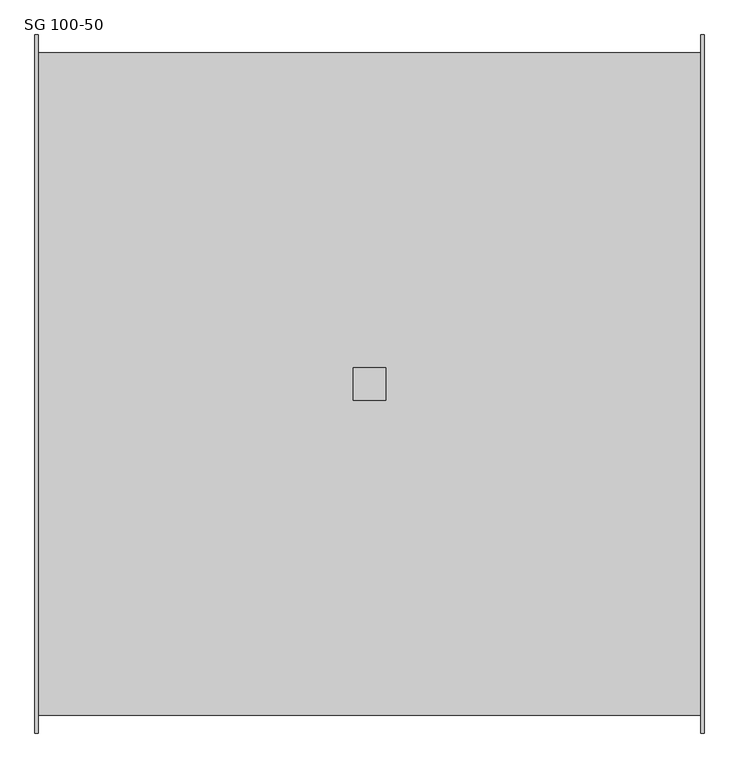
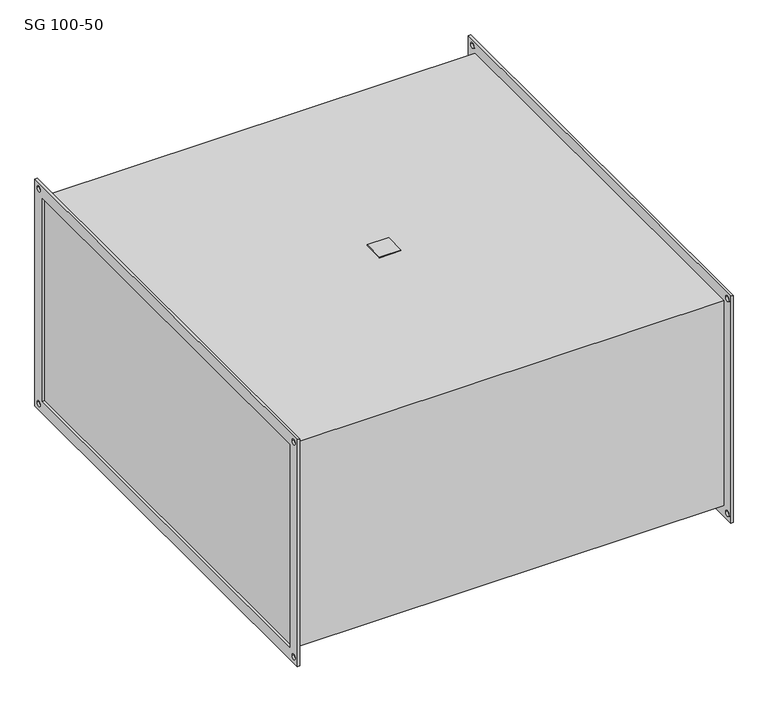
"""IFC4 building model written with IfcOpenShell, lengths in millimetres: damper geometry, KORF_Шумоглушитель_SG : SG 100-50."""

from ifc_helpers import new_model, si_unit, point, frame, frame_2d, origin, place, context, project, spatial, polyline, circle_curve, trimmed, segment, composite_curve, outline, extrude, source, transform, mapped, element, save


def sg_100_50_84ea0e26(model_context):
    return source(origin(), model_context, "Body", "SweptSolid", [
        extrude(outline(polyline([(483.0, -25.0), (483.0, 25.0), (533.0, 25.0), (533.0, -25.0), (483.0, -25.0)])), frame((0.0, 0.0, 253.0), z_axis=(0.0, 0.0, 1.0), x_axis=(1.0, 0.0, 0.0)), (0.0, 0.0, 1.0), 2.0),
        extrude(outline(polyline([(-530.0, 280.0), (530.0, 280.0), (530.0, -280.0), (-530.0, -280.0), (-530.0, 280.0)]), holes=[polyline([(-500.0, 250.0), (-500.0, -250.0), (500.0, -250.0), (500.0, 250.0), (-500.0, 250.0)]), composite_curve([segment(trimmed(circle_curve(frame_2d((515.0, 265.0)), 6.5), [point((508.5, 265.0))], [point((521.5, 265.0))], True, "CARTESIAN"), True, "CONTINUOUS"), segment(trimmed(circle_curve(frame_2d((515.0, 265.0)), 6.5), [point((521.5, 265.0))], [point((508.5, 265.0))], True, "CARTESIAN"), True, "CONTINUOUS")], self_intersect=False), composite_curve([segment(trimmed(circle_curve(frame_2d((-515.0, 265.0)), 6.5), [point((-521.5, 265.0))], [point((-508.5, 265.0))], True, "CARTESIAN"), True, "CONTINUOUS"), segment(trimmed(circle_curve(frame_2d((-515.0, 265.0)), 6.5), [point((-508.5, 265.0))], [point((-521.5, 265.0))], True, "CARTESIAN"), True, "CONTINUOUS")], self_intersect=False), composite_curve([segment(trimmed(circle_curve(frame_2d((-515.0, -265.0)), 6.5), [point((-521.5, -265.0))], [point((-508.5, -265.0))], True, "CARTESIAN"), True, "CONTINUOUS"), segment(trimmed(circle_curve(frame_2d((-515.0, -265.0)), 6.5), [point((-508.5, -265.0))], [point((-521.5, -265.0))], True, "CARTESIAN"), True, "CONTINUOUS")], self_intersect=False), composite_curve([segment(trimmed(circle_curve(frame_2d((515.0, -265.0)), 6.5), [point((508.5, -265.0))], [point((521.5, -265.0))], True, "CARTESIAN"), True, "CONTINUOUS"), segment(trimmed(circle_curve(frame_2d((515.0, -265.0)), 6.5), [point((521.5, -265.0))], [point((508.5, -265.0))], True, "CARTESIAN"), True, "CONTINUOUS")], self_intersect=False)]), frame((1011.0, 0.0, 0.0), z_axis=(1.0, 0.0, 0.0), x_axis=(0.0, 1.0, 0.0)), (0.0, 0.0, 1.0), 5.0),
        extrude(outline(polyline([(-530.0, 280.0), (530.0, 280.0), (530.0, -280.0), (-530.0, -280.0), (-530.0, 280.0)]), holes=[polyline([(-500.0, 250.0), (-500.0, -250.0), (500.0, -250.0), (500.0, 250.0), (-500.0, 250.0)]), composite_curve([segment(trimmed(circle_curve(frame_2d((515.0, 265.0)), 6.5), [point((508.5, 265.0))], [point((521.5, 265.0))], True, "CARTESIAN"), True, "CONTINUOUS"), segment(trimmed(circle_curve(frame_2d((515.0, 265.0)), 6.5), [point((521.5, 265.0))], [point((508.5, 265.0))], True, "CARTESIAN"), True, "CONTINUOUS")], self_intersect=False), composite_curve([segment(trimmed(circle_curve(frame_2d((-515.0, 265.0)), 6.5), [point((-521.5, 265.0))], [point((-508.5, 265.0))], True, "CARTESIAN"), True, "CONTINUOUS"), segment(trimmed(circle_curve(frame_2d((-515.0, 265.0)), 6.5), [point((-508.5, 265.0))], [point((-521.5, 265.0))], True, "CARTESIAN"), True, "CONTINUOUS")], self_intersect=False), composite_curve([segment(trimmed(circle_curve(frame_2d((-515.0, -265.0)), 6.5), [point((-521.5, -265.0))], [point((-508.5, -265.0))], True, "CARTESIAN"), True, "CONTINUOUS"), segment(trimmed(circle_curve(frame_2d((-515.0, -265.0)), 6.5), [point((-508.5, -265.0))], [point((-521.5, -265.0))], True, "CARTESIAN"), True, "CONTINUOUS")], self_intersect=False), composite_curve([segment(trimmed(circle_curve(frame_2d((515.0, -265.0)), 6.5), [point((508.5, -265.0))], [point((521.5, -265.0))], True, "CARTESIAN"), True, "CONTINUOUS"), segment(trimmed(circle_curve(frame_2d((515.0, -265.0)), 6.5), [point((521.5, -265.0))], [point((508.5, -265.0))], True, "CARTESIAN"), True, "CONTINUOUS")], self_intersect=False)]), frame((0.0, 0.0, 0.0), z_axis=(1.0, 0.0, 0.0), x_axis=(0.0, 1.0, 0.0)), (0.0, 0.0, 1.0), 5.0),
        extrude(outline(polyline([(1011.0, 503.0), (1011.0, -503.0), (5.0, -503.0), (5.0, 503.0), (1011.0, 503.0)])), frame((0.0, 0.0, -253.0), z_axis=(0.0, 0.0, 1.0), x_axis=(1.0, 0.0, 0.0)), (0.0, 0.0, 1.0), 506.0),
    ])


if __name__ == "__main__":
    model = new_model("IFC4")
    model_context = context("Model", 3, world=origin())
    ifc_project = project(units=[si_unit("LENGTHUNIT", "METRE", prefix="MILLI")], contexts=[model_context])
    site = spatial("IfcSite", under=ifc_project)
    building = spatial("IfcBuilding", under=site)
    placement = place(None, origin())
    sg_100_50_shape = sg_100_50_84ea0e26(model_context)
    element("IfcDamper", 1, ObjectType="KORF_Шумоглушитель_SG : SG 100-50", at=placement, inside=building, context=model_context, shape_type="MappedRepresentation", body=[
        mapped(sg_100_50_shape, transform((0.0, 0.0, 0.0), x_axis=(1.0, 0.0, 0.0), y_axis=(0.0, 1.0, 0.0), z_axis=(0.0, 0.0, 1.0))),
    ])
    save(model, "model.ifc")
